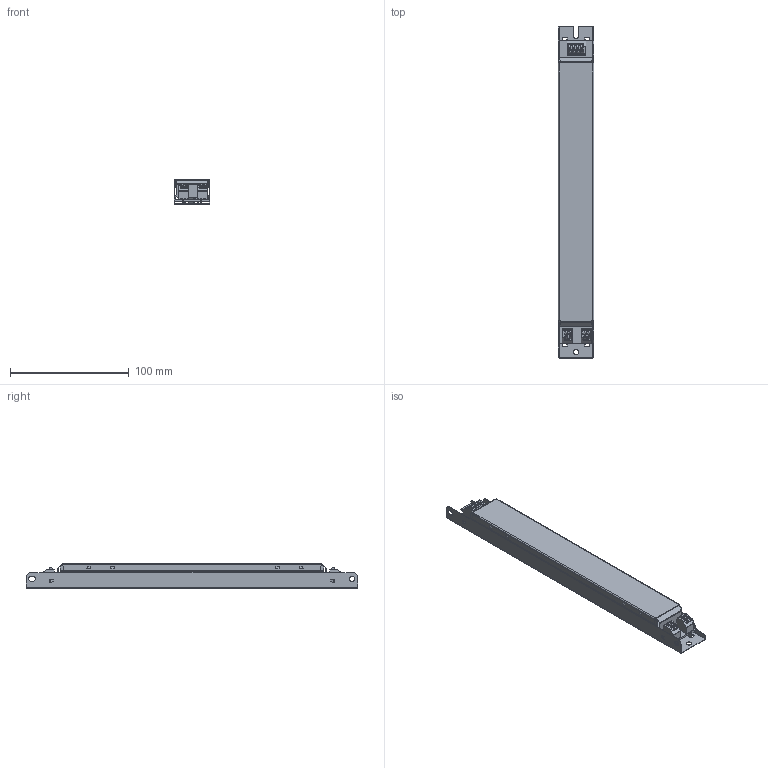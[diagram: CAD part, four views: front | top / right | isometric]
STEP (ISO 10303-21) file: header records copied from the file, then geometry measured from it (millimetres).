
FILE_DESCRIPTION (( 'STEP AP203' ), '1' );
FILE_NAME ('LL25SE-CC-150-500.STEP', '2018-12-17T09:18:56', ( '' ), ( '' ), 'SwSTEP 2.0', 'SolidWorks 2014', '' );
FILE_SCHEMA (( 'CONFIG_CONTROL_DESIGN' ));
Length unit declared in the file: millimetre
Products named in the file (1): LL25SE-CC-150-500
Bounding box: 30.08 x 280 x 20.8 mm (x, y, z)
Volume: 29317.3 mm3; surface area: 74251.1 mm2
Topology: 10 solids, 10 shells, 841 faces, 2287 edges, 1478 vertices
Faces by surface type: plane 563, cylinder 230, bspline 28, cone 20
Entity records: 27048 total; most frequent: CARTESIAN_POINT 5687, ORIENTED_EDGE 4574, DIRECTION 4207, EDGE_CURVE 2287, VECTOR 1755, LINE 1755, VERTEX_POINT 1478, AXIS2_PLACEMENT_3D 1226
